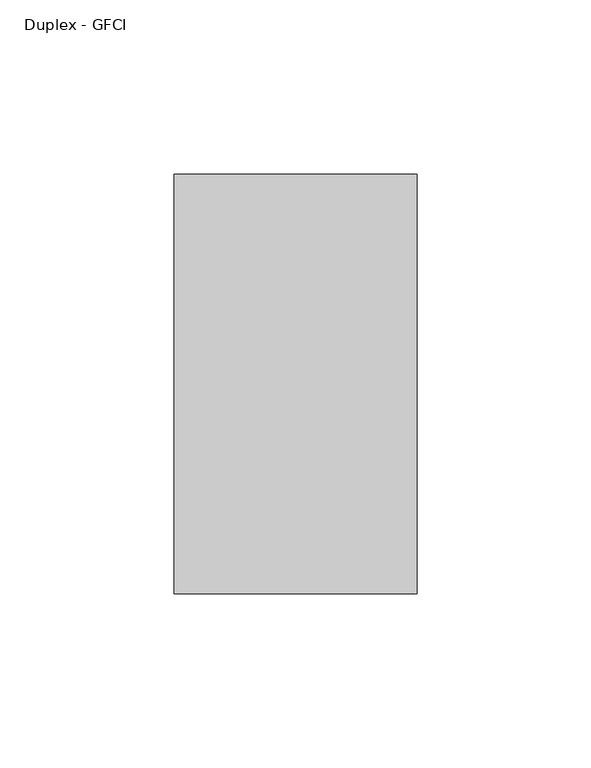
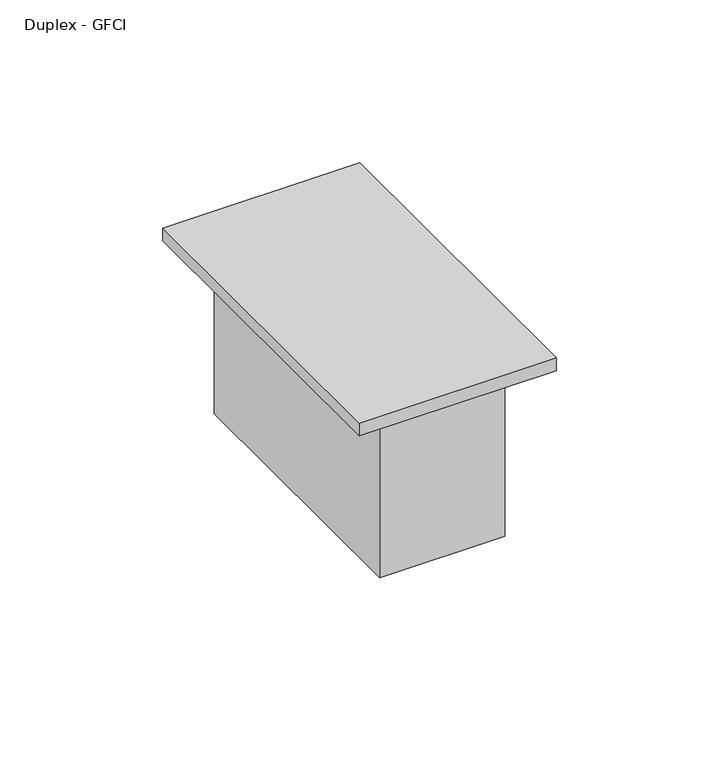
"""IFC4 building model written with IfcOpenShell, lengths in millimetres: proxy geometry, OMAHA - Receptacle - 120V 1P with OS Control : Duplex - GFCI."""

from ifc_helpers import new_model, si_unit, frame, origin, place, context, project, spatial, polyline, outline, extrude, source, transform, mapped, element, save


def duplex_gfci_b51e9c6a(model_context):
    return source(origin(), model_context, "Body", "SweptSolid", [
        extrude(outline(polyline([(22.225, -9.525), (22.225, -111.125), (-22.225, -111.125), (-22.225, -9.525), (22.225, -9.525)])), frame((0.0, 0.0, -68.2625), z_axis=(0.0, 0.0, 1.0), x_axis=(1.0, 0.0, 0.0)), (0.0, 0.0, 1.0), 63.5),
        extrude(outline(polyline([(34.925, 0.0), (34.925, -120.65), (-34.925, -120.65), (-34.925, 0.0), (34.925, 0.0)])), frame((0.0, 0.0, -4.7625), z_axis=(0.0, 0.0, 1.0), x_axis=(1.0, 0.0, 0.0)), (0.0, 0.0, 1.0), 4.7625),
        extrude(outline(polyline([(22.225, -9.525), (22.225, -111.125), (-22.225, -111.125), (-22.225, -9.525), (22.225, -9.525)])), frame((0.0, 0.0, -68.2625), z_axis=(0.0, 0.0, 1.0), x_axis=(1.0, 0.0, 0.0)), (0.0, 0.0, 1.0), 63.5),
        extrude(outline(polyline([(34.925, 0.0), (34.925, -120.65), (-34.925, -120.65), (-34.925, 0.0), (34.925, 0.0)])), frame((0.0, 0.0, -4.7625), z_axis=(0.0, 0.0, 1.0), x_axis=(1.0, 0.0, 0.0)), (0.0, 0.0, 1.0), 4.7625),
    ])


if __name__ == "__main__":
    model = new_model("IFC4")
    model_context = context("Model", 3, world=origin())
    ifc_project = project(units=[si_unit("LENGTHUNIT", "METRE", prefix="MILLI")], contexts=[model_context])
    site = spatial("IfcSite", under=ifc_project)
    building = spatial("IfcBuilding", under=site)
    placement = place(None, origin())
    duplex_gfci_shape = duplex_gfci_b51e9c6a(model_context)
    element("IfcBuildingElementProxy", 1, Name="OMAHA - Receptacle - 120V 1P with OS Control : Duplex - GFCI", ObjectType="OMAHA - Receptacle - 120V 1P with OS Control : Duplex - GFCI", at=placement, inside=building, context=model_context, shape_type="MappedRepresentation", body=[
        mapped(duplex_gfci_shape, transform((0.0, 0.0, 0.0), x_axis=(1.0, 0.0, 0.0), y_axis=(0.0, 1.0, 0.0), z_axis=(0.0, 0.0, 1.0))),
    ])
    save(model, "model.ifc")
